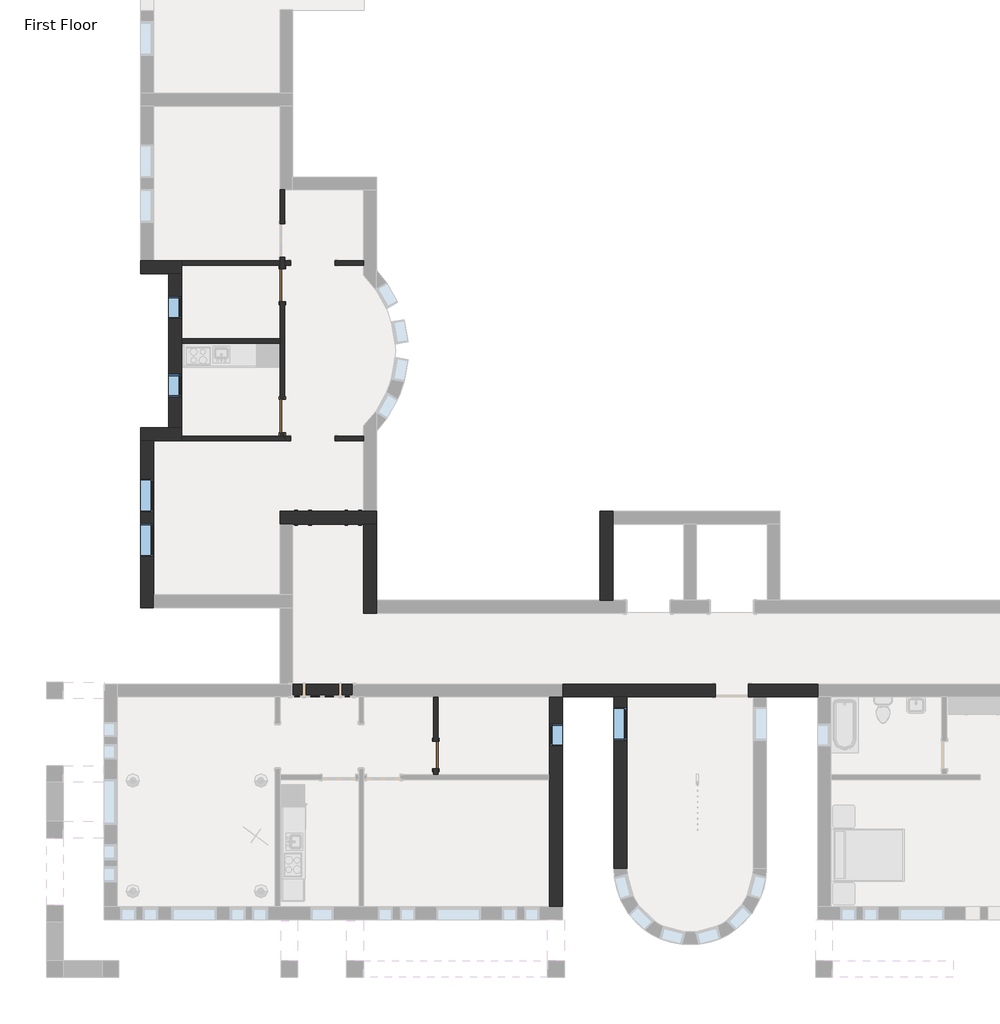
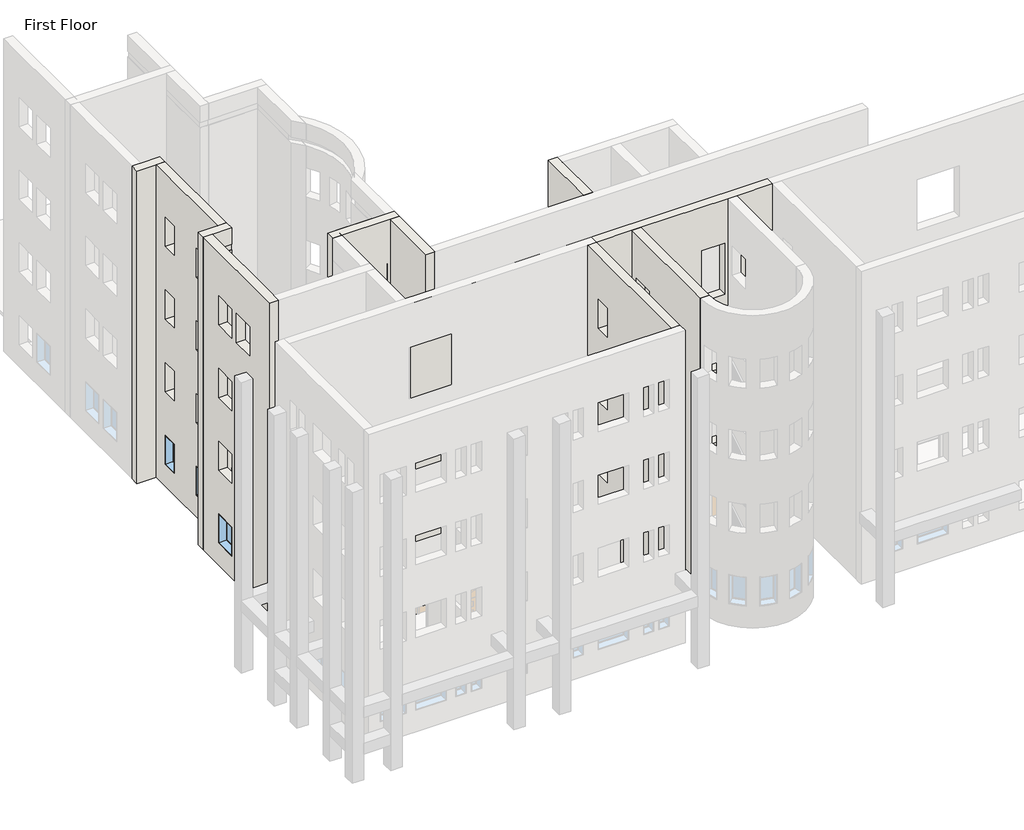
# One storey, part 4 of 23: 18 walls, 6 windows, 4 doors.
"""IFC4 building model written with IfcOpenShell, lengths in millimetres."""

from ifc_helpers import new_model, si_unit, frame, origin, origin_with_axes, place, context, project, spatial, polyline, outline, extrude, faceted_brep, transform, mapped, element, save
from components import door_4d6c7550, door_a1797ceb, door_a3eb833a, door_ffdb1193, window_60baf983, window_ed80354a, window_0e2fc6ce

model = new_model("IFC4")

# Units and contexts
model_context = context("Model", 3, world=origin())
ifc_project = project(units=[si_unit("LENGTHUNIT", "METRE", prefix="MILLI")], contexts=[model_context])

# Site, building, storey
site = spatial("IfcSite", under=ifc_project)
building = spatial("IfcBuilding", under=site)
storey = spatial("IfcBuildingStorey", under=building, Name="First Floor", Elevation=0.0)

# Doors
placement = place(None, origin())
door_shape = door_4d6c7550(model_context)
element("IfcDoor", 1, ObjectType="Single-Flush : 30\" x 84\"", at=placement, inside=storey, context=model_context, shape_type="MappedRepresentation", body=[
    mapped(door_shape, transform((-22018.5964563, -29722.2808133, 0.0), x_axis=(0.0, -1.0, 0.0), y_axis=(1.0, 0.0, 0.0), z_axis=(0.0, 0.0, 1.0))),
])
door_2_shape = door_a1797ceb(model_context)
element("IfcDoor", 2, ObjectType="Single-Flush : 36\" x 84\"", at=placement, inside=storey, context=model_context, shape_type="MappedRepresentation", body=[
    mapped(door_2_shape, transform((-26223.8839563, -16873.0558133, 0.0), x_axis=(0.0, 1.0, 0.0), y_axis=(-1.0, 0.0, 0.0), z_axis=(0.0, 0.0, 1.0))),
])
door_3_shape = door_a3eb833a(model_context)
element("IfcDoor", 3, ObjectType="Single-Flush : 36\" x 84\"", at=placement, inside=storey, context=model_context, shape_type="MappedRepresentation", body=[
    mapped(door_3_shape, transform((-26223.8839563, -20451.2808133, 0.0), x_axis=(0.0, -1.0, 0.0), y_axis=(1.0, 0.0, 0.0), z_axis=(0.0, 0.0, 1.0))),
])
door_4_shape = door_ffdb1193(model_context)
element("IfcDoor", 4, ObjectType="Single-Raised Panel with Sidelights : 36\" x 84\"", at=placement, inside=storey, context=model_context, shape_type="MappedRepresentation", body=[
    mapped(door_4_shape, transform((-24968.1714563, -23234.1683133, 0.0), x_axis=(1.0, 0.0, 0.0), y_axis=(0.0, 1.0, 0.0), z_axis=(0.0, 0.0, 1.0))),
])

# Walls
element("IfcWall", 5, ObjectType="Exterior - Brick on Mtl. Stud", at=placement, inside=storey, context=model_context, shape_type="Brep", body=[
    faceted_brep([(-17171.9589563, -25496.3558133, 0.0), (-17171.9589563, -23410.3808133, 0.0), (-17171.9589563, -23057.9558133, 0.0), (-17171.9589563, -23057.9558133, 13106.4), (-17171.9589563, -23410.3808133, 13106.4), (-17171.9589563, -25496.3558133, 13106.4), (-17524.3839563, -25496.3558133, 0.0), (-17524.3839563, -25496.3558133, 13106.4), (-17524.3839563, -23057.9558133, 13106.4), (-17524.3839563, -23057.9558133, 0.0)], [[[0, 1, 2, 3, 4, 5]], [[6, 7, 8, 9]], [[2, 1, 0, 6, 9]], [[5, 4, 3, 8, 7]], [[3, 2, 9, 8]], [[0, 5, 7, 6]]]),
])
element("IfcWall", 6, ObjectType="Exterior - Brick on Mtl. Stud", at=placement, inside=storey, context=model_context, shape_type="SweptSolid", body=[
    extrude(outline(polyline([(-28134.7808133, 0.0), (-32835.3683133, 0.0), (-32835.3683133, 13106.4), (-28134.7808133, 13106.4), (-28134.7808133, 0.0)]), holes=[polyline([(-28415.7683133, 8229.6), (-29330.1683133, 8229.6), (-29330.1683133, 7010.4), (-28415.7683133, 7010.4), (-28415.7683133, 8229.6)]), polyline([(-28415.7683133, 5181.6), (-29330.1683133, 5181.6), (-29330.1683133, 3962.4), (-28415.7683133, 3962.4), (-28415.7683133, 5181.6)]), polyline([(-28415.7683133, 11277.6), (-29330.1683133, 11277.6), (-29330.1683133, 10058.4), (-28415.7683133, 10058.4), (-28415.7683133, 11277.6)]), polyline([(-28415.7683133, 2133.6), (-29330.1683133, 2133.6), (-29330.1683133, 914.4), (-28415.7683133, 914.4), (-28415.7683133, 2133.6)])]), frame((-17143.3839563, 0.0, 0.0), z_axis=(1.0, 0.0, 0.0), x_axis=(0.0, 1.0, 0.0)), (0.0, 0.0, 1.0), 352.425),
])
element("IfcWall", 7, ObjectType="Exterior - Brick on Mtl. Stud", at=placement, inside=storey, context=model_context, shape_type="Brep", body=[
    faceted_brep([(-26287.3839563, -23410.3808133, 0.0), (-25934.9589563, -23410.3808133, 0.0), (-24001.3839563, -23410.3808133, 0.0), (-23648.9589563, -23410.3808133, 0.0), (-23648.9589563, -23410.3808133, 13106.4), (-24001.3839563, -23410.3808133, 13106.4), (-25934.9589563, -23410.3808133, 13106.4), (-26287.3839563, -23410.3808133, 13106.4), (-26287.3839563, -23410.3808133, 12420.6), (-26287.3839563, -23410.3808133, 12192.0), (-26287.3839563, -23057.9558133, 0.0), (-26287.3839563, -23057.9558133, 13106.4), (-24001.3839563, -23057.9558133, 13106.4), (-23648.9589563, -23057.9558133, 13106.4), (-23648.9589563, -23057.9558133, 0.0), (-24001.3839563, -23057.9558133, 0.0)], [[[0, 1, 2, 3, 4, 5, 6, 7, 8, 9]], [[10, 11, 12, 13, 14, 15]], [[3, 2, 1, 0, 10, 15, 14]], [[7, 6, 5, 4, 13, 12, 11]], [[4, 3, 14, 13]], [[0, 9, 8, 7, 11, 10]]]),
])
element("IfcWall", 8, ObjectType="Exterior - Brick on Mtl. Stud", at=placement, inside=storey, context=model_context, shape_type="Brep", body=[
    faceted_brep([(-23648.9589563, -25848.7808133, 0.0), (-23648.9589563, -25496.3558133, 0.0), (-23648.9589563, -23410.3808133, 0.0), (-23648.9589563, -23410.3808133, 13106.4), (-23648.9589563, -25496.3558133, 13106.4), (-23648.9589563, -25848.7808133, 13106.4), (-24001.3839563, -25848.7808133, 0.0), (-24001.3839563, -25848.7808133, 13106.4), (-24001.3839563, -23410.3808133, 13106.4), (-24001.3839563, -23410.3808133, 0.0)], [[[0, 1, 2, 3, 4, 5]], [[6, 7, 8, 9]], [[2, 1, 0, 6, 9]], [[5, 4, 3, 8, 7]], [[0, 5, 7, 6]], [[3, 2, 9, 8]]]),
])
element("IfcWall", 9, ObjectType="Exterior - Brick on Mtl. Stud", at=placement, inside=storey, context=model_context, shape_type="Brep", body=[
    faceted_brep([(-11571.2589563, -27782.3558133, 0.0), (-13461.9714563, -27782.3558133, 0.0), (-13461.9714563, -27782.3558133, 2133.6), (-14376.3714563, -27782.3558133, 2133.6), (-14376.3714563, -27782.3558133, 0.0), (-25934.9589563, -27782.3558133, 0.0), (-25934.9589563, -27782.3558133, 13106.4), (-11571.2589563, -27782.3558133, 13106.4), (-14376.3714563, -27782.3558133, 6096.0), (-13461.9714563, -27782.3558133, 6096.0), (-13461.9714563, -27782.3558133, 8229.6), (-14376.3714563, -27782.3558133, 8229.6), (-14376.3714563, -27782.3558133, 3048.0), (-13461.9714563, -27782.3558133, 3048.0), (-13461.9714563, -27782.3558133, 5181.6), (-14376.3714563, -27782.3558133, 5181.6), (-14376.3714563, -27782.3558133, 9144.0), (-13461.9714563, -27782.3558133, 9144.0), (-13461.9714563, -27782.3558133, 11277.6), (-14376.3714563, -27782.3558133, 11277.6), (-13461.9714563, -28134.7808133, 2133.6), (-13461.9714563, -28134.7808133, 0.0), (-13333.3839563, -28134.7808133, 0.0), (-12980.9589563, -28134.7808133, 0.0), (-11571.2589563, -28134.7808133, 0.0), (-11571.2589563, -28134.7808133, 13106.4), (-12980.9589563, -28134.7808133, 13106.4), (-13333.3839563, -28134.7808133, 13106.4), (-16790.9589563, -28134.7808133, 13106.4), (-17143.3839563, -28134.7808133, 13106.4), (-18554.6714563, -28134.7808133, 13106.4), (-18907.0964563, -28134.7808133, 13106.4), (-25934.9589563, -28134.7808133, 13106.4), (-25934.9589563, -28134.7808133, 0.0), (-24128.3839563, -28134.7808133, 0.0), (-24001.3839563, -28134.7808133, 0.0), (-22082.0964563, -28134.7808133, 0.0), (-21955.0964563, -28134.7808133, 0.0), (-18907.0964563, -28134.7808133, 0.0), (-18554.6714563, -28134.7808133, 0.0), (-17143.3839563, -28134.7808133, 0.0), (-16790.9589563, -28134.7808133, 0.0), (-14376.3714563, -28134.7808133, 0.0), (-14376.3714563, -28134.7808133, 2133.6), (-14376.3714563, -28134.7808133, 6096.0), (-14376.3714563, -28134.7808133, 8229.6), (-13461.9714563, -28134.7808133, 8229.6), (-13461.9714563, -28134.7808133, 6096.0), (-14376.3714563, -28134.7808133, 3048.0), (-14376.3714563, -28134.7808133, 5181.6), (-13461.9714563, -28134.7808133, 5181.6), (-13461.9714563, -28134.7808133, 3048.0), (-14376.3714563, -28134.7808133, 9144.0), (-14376.3714563, -28134.7808133, 11277.6), (-13461.9714563, -28134.7808133, 11277.6), (-13461.9714563, -28134.7808133, 9144.0)], [[[0, 1, 2, 3, 4, 5, 6, 7], [8, 9, 10, 11], [12, 13, 14, 15], [16, 17, 18, 19]], [[20, 21, 22, 23, 24, 25, 26, 27, 28, 29, 30, 31, 32, 33, 34, 35, 36, 37, 38, 39, 40, 41, 42, 43], [44, 45, 46, 47], [48, 49, 50, 51], [52, 53, 54, 55]], [[24, 23, 22, 21, 1, 0]], [[42, 41, 40, 39, 38, 37, 36, 35, 34, 33, 5, 4]], [[7, 6, 32, 31, 30, 29, 28, 27, 26, 25]], [[0, 7, 25, 24]], [[6, 5, 33, 32]], [[2, 1, 21, 20]], [[3, 2, 20, 43]], [[4, 3, 43, 42]], [[9, 8, 44, 47]], [[10, 9, 47, 46]], [[11, 10, 46, 45]], [[8, 11, 45, 44]], [[13, 12, 48, 51]], [[14, 13, 51, 50]], [[15, 14, 50, 49]], [[12, 15, 49, 48]], [[17, 16, 52, 55]], [[18, 17, 55, 54]], [[19, 18, 54, 53]], [[16, 19, 53, 52]]]),
])
element("IfcWall", 10, ObjectType="Exterior - Brick on Mtl. Stud", at=placement, inside=storey, context=model_context, shape_type="Brep", body=[
    faceted_brep([(-18907.0964563, -28134.7808133, 0.0), (-18907.0964563, -30268.3808133, 0.0), (-18907.0964563, -30395.3808133, 0.0), (-18907.0964563, -33878.3558133, 0.0), (-18907.0964563, -33878.3558133, 13106.4), (-18907.0964563, -28134.7808133, 13106.4), (-18907.0964563, -28872.9683133, 8229.6), (-18907.0964563, -29482.5683133, 8229.6), (-18907.0964563, -29482.5683133, 7010.4), (-18907.0964563, -28872.9683133, 7010.4), (-18907.0964563, -28872.9683133, 5181.6), (-18907.0964563, -29482.5683133, 5181.6), (-18907.0964563, -29482.5683133, 3962.4), (-18907.0964563, -28872.9683133, 3962.4), (-18907.0964563, -28872.9683133, 11277.6), (-18907.0964563, -29482.5683133, 11277.6), (-18907.0964563, -29482.5683133, 10058.4), (-18907.0964563, -28872.9683133, 10058.4), (-18907.0964563, -28872.9683133, 2133.6), (-18907.0964563, -29482.5683133, 2133.6), (-18907.0964563, -29482.5683133, 914.4), (-18907.0964563, -28872.9683133, 914.4), (-18554.6714563, -28134.7808133, 0.0), (-18554.6714563, -28134.7808133, 13106.4), (-18554.6714563, -33878.3558133, 13106.4), (-18554.6714563, -33878.3558133, 0.0), (-18554.6714563, -28872.9683133, 8229.6), (-18554.6714563, -28872.9683133, 7010.4), (-18554.6714563, -29482.5683133, 7010.4), (-18554.6714563, -29482.5683133, 8229.6), (-18554.6714563, -28872.9683133, 5181.6), (-18554.6714563, -28872.9683133, 3962.4), (-18554.6714563, -29482.5683133, 3962.4), (-18554.6714563, -29482.5683133, 5181.6), (-18554.6714563, -28872.9683133, 11277.6), (-18554.6714563, -28872.9683133, 10058.4), (-18554.6714563, -29482.5683133, 10058.4), (-18554.6714563, -29482.5683133, 11277.6), (-18554.6714563, -28872.9683133, 2133.6), (-18554.6714563, -28872.9683133, 914.4), (-18554.6714563, -29482.5683133, 914.4), (-18554.6714563, -29482.5683133, 2133.6), (-18741.9964563, -28134.7808133, 0.0), (-18741.9964563, -33878.3558133, 0.0)], [[[0, 1, 2, 3, 4, 5], [6, 7, 8, 9], [10, 11, 12, 13], [14, 15, 16, 17], [18, 19, 20, 21]], [[22, 23, 24, 25], [26, 27, 28, 29], [30, 31, 32, 33], [34, 35, 36, 37], [38, 39, 40, 41]], [[5, 4, 24, 23]], [[0, 5, 23, 22, 42]], [[4, 3, 43, 25, 24]], [[42, 22, 25, 43]], [[3, 2, 1, 0, 42, 43]], [[27, 26, 6, 9]], [[28, 27, 9, 8]], [[29, 28, 8, 7]], [[26, 29, 7, 6]], [[31, 30, 10, 13]], [[32, 31, 13, 12]], [[33, 32, 12, 11]], [[30, 33, 11, 10]], [[35, 34, 14, 17]], [[36, 35, 17, 16]], [[37, 36, 16, 15]], [[34, 37, 15, 14]], [[39, 38, 18, 21]], [[40, 39, 21, 20]], [[41, 40, 20, 19]], [[38, 41, 19, 18]]]),
])
element("IfcWall", 11, ObjectType="Exterior - Brick on Mtl. Stud", at=placement, inside=storey, context=model_context, shape_type="Brep", body=[
    faceted_brep([(-24001.3839563, -23410.3808133, 13106.4), (-25934.9589563, -23410.3808133, 13106.4), (-25934.9589563, -23410.3808133, 0.0), (-25806.3714563, -23410.3808133, 0.0), (-25806.3714563, -23410.3808133, 2133.6), (-24129.9714563, -23410.3808133, 2133.6), (-24129.9714563, -23410.3808133, 0.0), (-24001.3839563, -23410.3808133, 0.0), (-24129.9714563, -23410.3808133, 6096.0), (-25806.3714563, -23410.3808133, 6096.0), (-25806.3714563, -23410.3808133, 8229.6), (-24129.9714563, -23410.3808133, 8229.6), (-24129.9714563, -23410.3808133, 3048.0), (-25806.3714563, -23410.3808133, 3048.0), (-25806.3714563, -23410.3808133, 5181.6), (-24129.9714563, -23410.3808133, 5181.6), (-24129.9714563, -23410.3808133, 9144.0), (-25806.3714563, -23410.3808133, 9144.0), (-25806.3714563, -23410.3808133, 11277.6), (-24129.9714563, -23410.3808133, 11277.6), (-25934.9589563, -23057.9558133, 13106.4), (-24001.3839563, -23057.9558133, 13106.4), (-24001.3839563, -23057.9558133, 12420.6), (-25934.9589563, -23057.9558133, 12420.6), (-24129.9714563, -23057.9558133, 0.0), (-24129.9714563, -23057.9558133, 2133.6), (-25806.3714563, -23057.9558133, 2133.6), (-25806.3714563, -23057.9558133, 0.0), (-25934.9589563, -23057.9558133, 0.0), (-25934.9589563, -23057.9558133, 12192.0), (-24001.3839563, -23057.9558133, 12192.0), (-24001.3839563, -23057.9558133, 0.0), (-25806.3714563, -23057.9558133, 6096.0), (-24129.9714563, -23057.9558133, 6096.0), (-24129.9714563, -23057.9558133, 8229.6), (-25806.3714563, -23057.9558133, 8229.6), (-25806.3714563, -23057.9558133, 3048.0), (-24129.9714563, -23057.9558133, 3048.0), (-24129.9714563, -23057.9558133, 5181.6), (-25806.3714563, -23057.9558133, 5181.6), (-25806.3714563, -23057.9558133, 9144.0), (-24129.9714563, -23057.9558133, 9144.0), (-24129.9714563, -23057.9558133, 11277.6), (-25806.3714563, -23057.9558133, 11277.6), (-24001.3839563, -23070.6558133, 12192.0), (-24001.3839563, -23070.6558133, 12420.6), (-25934.9589563, -23070.6558133, 12420.6), (-25934.9589563, -23070.6558133, 12192.0)], [[[0, 1, 2, 3, 4, 5, 6, 7], [8, 9, 10, 11], [12, 13, 14, 15], [16, 17, 18, 19]], [[20, 21, 22, 23]], [[24, 25, 26, 27, 28, 29, 30, 31], [32, 33, 34, 35], [36, 37, 38, 39], [40, 41, 42, 43]], [[31, 7, 6, 24]], [[2, 28, 27, 3]], [[1, 0, 21, 20]], [[0, 7, 31, 30, 44, 45, 22, 21]], [[2, 1, 20, 23, 46, 47, 29, 28]], [[25, 24, 6, 5]], [[26, 25, 5, 4]], [[27, 26, 4, 3]], [[33, 32, 9, 8]], [[34, 33, 8, 11]], [[35, 34, 11, 10]], [[32, 35, 10, 9]], [[37, 36, 13, 12]], [[38, 37, 12, 15]], [[39, 38, 15, 14]], [[36, 39, 14, 13]], [[41, 40, 17, 16]], [[42, 41, 16, 19]], [[43, 42, 19, 18]], [[40, 43, 18, 17]], [[47, 44, 30, 29]], [[45, 46, 23, 22]], [[44, 47, 46, 45]]]),
])
element("IfcWall", 12, ObjectType="Exterior - Brick on Mtl. Stud", at=placement, inside=storey, context=model_context, shape_type="Brep", body=[
    faceted_brep([(-30097.3839563, -16552.3808133, 0.0), (-29335.3839563, -16552.3808133, 0.0), (-28982.9589563, -16552.3808133, 0.0), (-28982.9589563, -16552.3808133, 12192.0), (-28995.6589563, -16552.3808133, 12192.0), (-28995.6589563, -16552.3808133, 12420.6), (-28982.9589563, -16552.3808133, 12420.6), (-28982.9589563, -16552.3808133, 13106.4), (-29335.3839563, -16552.3808133, 13106.4), (-30097.3839563, -16552.3808133, 13106.4), (-28982.9589563, -16199.9558133, 0.0), (-29744.9589563, -16199.9558133, 0.0), (-30097.3839563, -16199.9558133, 0.0), (-30097.3839563, -16199.9558133, 13106.4), (-29744.9589563, -16199.9558133, 13106.4), (-28982.9589563, -16199.9558133, 13106.4), (-28982.9589563, -16199.9558133, 12420.6), (-29744.9589563, -16199.9558133, 12420.6), (-29757.6589563, -16199.9558133, 12420.6), (-29757.6589563, -16199.9558133, 12192.0), (-29744.9589563, -16199.9558133, 12192.0), (-28982.9589563, -16199.9558133, 12192.0), (-28982.9589563, -16199.9558133, 9144.0), (-28982.9589563, -16199.9558133, 6096.0), (-28982.9589563, -16199.9558133, 3048.0), (-28982.9589563, -16326.9558133, 0.0), (-28982.9589563, -16326.9558133, 12192.0), (-29757.6589563, -16212.6558133, 12192.0), (-28995.6589563, -16212.6558133, 12192.0), (-28995.6589563, -16212.6558133, 12420.6), (-29757.6589563, -16212.6558133, 12420.6)], [[[0, 1, 2, 3, 4, 5, 6, 7, 8, 9]], [[10, 11, 12, 13, 14, 15, 16, 17, 18, 19, 20, 21, 22, 23, 24]], [[2, 1, 0, 12, 11, 10, 25]], [[9, 8, 7, 15, 14, 13]], [[0, 9, 13, 12]], [[2, 25, 10, 24, 23, 22, 21, 26, 3]], [[15, 7, 6, 16]], [[27, 28, 4, 3, 26, 21, 20, 19]], [[29, 30, 18, 17, 16, 6, 5]], [[30, 27, 19, 18]], [[28, 27, 30, 29]], [[28, 29, 5, 4]]]),
])
element("IfcWall", 13, ObjectType="Exterior - Brick on Mtl. Stud", at=placement, inside=storey, context=model_context, shape_type="Brep", body=[
    faceted_brep([(-29335.3839563, -16552.3808133, 0.0), (-29335.3839563, -20771.9558133, 0.0), (-29335.3839563, -20771.9558133, 13106.4), (-29335.3839563, -16552.3808133, 13106.4), (-29335.3839563, -17177.8558133, 7010.4), (-29335.3839563, -17177.8558133, 8229.6), (-29335.3839563, -17787.4558133, 8229.6), (-29335.3839563, -17787.4558133, 7010.4), (-29335.3839563, -19311.4558133, 7010.4), (-29335.3839563, -19311.4558133, 8229.6), (-29335.3839563, -19921.0558133, 8229.6), (-29335.3839563, -19921.0558133, 7010.4), (-29335.3839563, -17177.8558133, 3962.4), (-29335.3839563, -17177.8558133, 5181.6), (-29335.3839563, -17787.4558133, 5181.6), (-29335.3839563, -17787.4558133, 3962.4), (-29335.3839563, -19311.4558133, 3962.4), (-29335.3839563, -19311.4558133, 5181.6), (-29335.3839563, -19921.0558133, 5181.6), (-29335.3839563, -19921.0558133, 3962.4), (-29335.3839563, -17177.8558133, 10058.4), (-29335.3839563, -17177.8558133, 11277.6), (-29335.3839563, -17787.4558133, 11277.6), (-29335.3839563, -17787.4558133, 10058.4), (-29335.3839563, -19311.4558133, 10058.4), (-29335.3839563, -19311.4558133, 11277.6), (-29335.3839563, -19921.0558133, 11277.6), (-29335.3839563, -19921.0558133, 10058.4), (-29335.3839563, -17177.8558133, 914.4), (-29335.3839563, -17177.8558133, 2133.6), (-29335.3839563, -17787.4558133, 2133.6), (-29335.3839563, -17787.4558133, 914.4), (-29335.3839563, -19311.4558133, 914.4), (-29335.3839563, -19311.4558133, 2133.6), (-29335.3839563, -19921.0558133, 2133.6), (-29335.3839563, -19921.0558133, 914.4), (-28982.9589563, -20771.9558133, 0.0), (-28982.9589563, -18460.5558133, 0.0), (-28982.9589563, -18333.5558133, 0.0), (-28982.9589563, -16552.3808133, 0.0), (-28982.9589563, -16552.3808133, 12192.0), (-28982.9589563, -18333.5558133, 12192.0), (-28982.9589563, -18460.5558133, 12192.0), (-28982.9589563, -20771.9558133, 12192.0), (-28982.9589563, -17177.8558133, 8229.6), (-28982.9589563, -17177.8558133, 7010.4), (-28982.9589563, -17787.4558133, 7010.4), (-28982.9589563, -17787.4558133, 8229.6), (-28982.9589563, -19311.4558133, 8229.6), (-28982.9589563, -19311.4558133, 7010.4), (-28982.9589563, -19921.0558133, 7010.4), (-28982.9589563, -19921.0558133, 8229.6), (-28982.9589563, -17177.8558133, 5181.6), (-28982.9589563, -17177.8558133, 3962.4), (-28982.9589563, -17787.4558133, 3962.4), (-28982.9589563, -17787.4558133, 5181.6), (-28982.9589563, -19311.4558133, 5181.6), (-28982.9589563, -19311.4558133, 3962.4), (-28982.9589563, -19921.0558133, 3962.4), (-28982.9589563, -19921.0558133, 5181.6), (-28982.9589563, -17177.8558133, 11277.6), (-28982.9589563, -17177.8558133, 10058.4), (-28982.9589563, -17787.4558133, 10058.4), (-28982.9589563, -17787.4558133, 11277.6), (-28982.9589563, -19311.4558133, 11277.6), (-28982.9589563, -19311.4558133, 10058.4), (-28982.9589563, -19921.0558133, 10058.4), (-28982.9589563, -19921.0558133, 11277.6), (-28982.9589563, -17177.8558133, 2133.6), (-28982.9589563, -17177.8558133, 914.4), (-28982.9589563, -17787.4558133, 914.4), (-28982.9589563, -17787.4558133, 2133.6), (-28982.9589563, -19311.4558133, 2133.6), (-28982.9589563, -19311.4558133, 914.4), (-28982.9589563, -19921.0558133, 914.4), (-28982.9589563, -19921.0558133, 2133.6), (-28982.9589563, -16552.3808133, 13106.4), (-28982.9589563, -20771.9558133, 13106.4), (-28982.9589563, -20771.9558133, 12420.6), (-28982.9589563, -16552.3808133, 12420.6), (-28995.6589563, -16552.3808133, 12420.6), (-28995.6589563, -16552.3808133, 12192.0), (-28995.6589563, -20771.9558133, 12192.0), (-28995.6589563, -20771.9558133, 12420.6)], [[[0, 1, 2, 3], [4, 5, 6, 7], [8, 9, 10, 11], [12, 13, 14, 15], [16, 17, 18, 19], [20, 21, 22, 23], [24, 25, 26, 27], [28, 29, 30, 31], [32, 33, 34, 35]], [[36, 37, 38, 39, 40, 41, 42, 43], [44, 45, 46, 47], [48, 49, 50, 51], [52, 53, 54, 55], [56, 57, 58, 59], [60, 61, 62, 63], [64, 65, 66, 67], [68, 69, 70, 71], [72, 73, 74, 75]], [[76, 77, 78, 79]], [[1, 0, 39, 38, 37, 36]], [[3, 2, 77, 76]], [[0, 3, 76, 79, 80, 81, 40, 39]], [[2, 1, 36, 43, 82, 83, 78, 77]], [[45, 44, 5, 4]], [[46, 45, 4, 7]], [[47, 46, 7, 6]], [[44, 47, 6, 5]], [[49, 48, 9, 8]], [[50, 49, 8, 11]], [[51, 50, 11, 10]], [[48, 51, 10, 9]], [[53, 52, 13, 12]], [[54, 53, 12, 15]], [[55, 54, 15, 14]], [[52, 55, 14, 13]], [[57, 56, 17, 16]], [[58, 57, 16, 19]], [[59, 58, 19, 18]], [[56, 59, 18, 17]], [[61, 60, 21, 20]], [[62, 61, 20, 23]], [[63, 62, 23, 22]], [[60, 63, 22, 21]], [[65, 64, 25, 24]], [[66, 65, 24, 27]], [[67, 66, 27, 26]], [[64, 67, 26, 25]], [[69, 68, 29, 28]], [[70, 69, 28, 31]], [[71, 70, 31, 30]], [[68, 71, 30, 29]], [[73, 72, 33, 32]], [[74, 73, 32, 35]], [[75, 74, 35, 34]], [[72, 75, 34, 33]], [[81, 82, 43, 42, 41, 40]], [[83, 80, 79, 78]], [[82, 81, 80, 83]]]),
])
element("IfcWall", 14, ObjectType="Exterior - Brick on Mtl. Stud", at=placement, inside=storey, context=model_context, shape_type="Brep", body=[
    faceted_brep([(-28982.9589563, -20771.9558133, 0.0), (-29335.3839563, -20771.9558133, 0.0), (-30097.3839563, -20771.9558133, 0.0), (-30097.3839563, -20771.9558133, 13106.4), (-29335.3839563, -20771.9558133, 13106.4), (-28982.9589563, -20771.9558133, 13106.4), (-28982.9589563, -20771.9558133, 12420.6), (-28995.6589563, -20771.9558133, 12420.6), (-28995.6589563, -20771.9558133, 12192.0), (-28982.9589563, -20771.9558133, 12192.0), (-30097.3839563, -21124.3808133, 0.0), (-29744.9589563, -21124.3808133, 0.0), (-28982.9589563, -21124.3808133, 0.0), (-28982.9589563, -21124.3808133, 3048.0), (-28982.9589563, -21124.3808133, 6096.0), (-28982.9589563, -21124.3808133, 9144.0), (-28982.9589563, -21124.3808133, 12192.0), (-29744.9589563, -21124.3808133, 12192.0), (-29757.6589563, -21124.3808133, 12192.0), (-29757.6589563, -21124.3808133, 12420.6), (-29744.9589563, -21124.3808133, 12420.6), (-28982.9589563, -21124.3808133, 12420.6), (-28982.9589563, -21124.3808133, 13106.4), (-29744.9589563, -21124.3808133, 13106.4), (-30097.3839563, -21124.3808133, 13106.4), (-28982.9589563, -20997.3808133, 0.0), (-28982.9589563, -20997.3808133, 12192.0), (-28995.6589563, -21111.6808133, 12192.0), (-29757.6589563, -21111.6808133, 12192.0), (-29757.6589563, -21111.6808133, 12420.6), (-28995.6589563, -21111.6808133, 12420.6)], [[[0, 1, 2, 3, 4, 5, 6, 7, 8, 9]], [[10, 11, 12, 13, 14, 15, 16, 17, 18, 19, 20, 21, 22, 23, 24]], [[2, 1, 0, 25, 12, 11, 10]], [[5, 4, 3, 24, 23, 22]], [[12, 25, 0, 9, 26, 16, 15, 14, 13]], [[5, 22, 21, 6]], [[3, 2, 10, 24]], [[27, 28, 18, 17, 16, 26, 9, 8]], [[29, 30, 7, 6, 21, 20, 19]], [[30, 27, 8, 7]], [[28, 27, 30, 29]], [[28, 29, 19, 18]]]),
])
element("IfcWall", 15, ObjectType="Exterior - Brick on Mtl. Stud", at=placement, inside=storey, context=model_context, shape_type="Brep", body=[
    faceted_brep([(-30097.3839563, -21124.3808133, 0.0), (-30097.3839563, -25696.3808133, 0.0), (-30097.3839563, -25696.3808133, 13106.4), (-30097.3839563, -21124.3808133, 13106.4), (-30097.3839563, -22167.3683133, 7010.4), (-30097.3839563, -22167.3683133, 8229.6), (-30097.3839563, -23081.7683133, 8229.6), (-30097.3839563, -23081.7683133, 7010.4), (-30097.3839563, -23386.5683133, 7010.4), (-30097.3839563, -23386.5683133, 8229.6), (-30097.3839563, -24300.9683133, 8229.6), (-30097.3839563, -24300.9683133, 7010.4), (-30097.3839563, -22167.3683133, 3962.4), (-30097.3839563, -22167.3683133, 5181.6), (-30097.3839563, -23081.7683133, 5181.6), (-30097.3839563, -23081.7683133, 3962.4), (-30097.3839563, -23386.5683133, 3962.4), (-30097.3839563, -23386.5683133, 5181.6), (-30097.3839563, -24300.9683133, 5181.6), (-30097.3839563, -24300.9683133, 3962.4), (-30097.3839563, -22167.3683133, 10058.4), (-30097.3839563, -22167.3683133, 11277.6), (-30097.3839563, -23081.7683133, 11277.6), (-30097.3839563, -23081.7683133, 10058.4), (-30097.3839563, -23386.5683133, 10058.4), (-30097.3839563, -23386.5683133, 11277.6), (-30097.3839563, -24300.9683133, 11277.6), (-30097.3839563, -24300.9683133, 10058.4), (-30097.3839563, -22167.3683133, 914.4), (-30097.3839563, -22167.3683133, 2133.6), (-30097.3839563, -23081.7683133, 2133.6), (-30097.3839563, -23081.7683133, 914.4), (-30097.3839563, -23386.5683133, 914.4), (-30097.3839563, -23386.5683133, 2133.6), (-30097.3839563, -24300.9683133, 2133.6), (-30097.3839563, -24300.9683133, 914.4), (-29744.9589563, -25696.3808133, 0.0), (-29744.9589563, -25343.9558133, 0.0), (-29744.9589563, -21124.3808133, 0.0), (-29744.9589563, -21124.3808133, 12192.0), (-29744.9589563, -25343.9558133, 12192.0), (-29744.9589563, -25356.6558133, 12192.0), (-29744.9589563, -25356.6558133, 12420.6), (-29744.9589563, -25343.9558133, 12420.6), (-29744.9589563, -21124.3808133, 12420.6), (-29744.9589563, -21124.3808133, 13106.4), (-29744.9589563, -25343.9558133, 13106.4), (-29744.9589563, -25696.3808133, 13106.4), (-29744.9589563, -22167.3683133, 8229.6), (-29744.9589563, -22167.3683133, 7010.4), (-29744.9589563, -23081.7683133, 7010.4), (-29744.9589563, -23081.7683133, 8229.6), (-29744.9589563, -23386.5683133, 8229.6), (-29744.9589563, -23386.5683133, 7010.4), (-29744.9589563, -24300.9683133, 7010.4), (-29744.9589563, -24300.9683133, 8229.6), (-29744.9589563, -22167.3683133, 5181.6), (-29744.9589563, -22167.3683133, 3962.4), (-29744.9589563, -23081.7683133, 3962.4), (-29744.9589563, -23081.7683133, 5181.6), (-29744.9589563, -23386.5683133, 5181.6), (-29744.9589563, -23386.5683133, 3962.4), (-29744.9589563, -24300.9683133, 3962.4), (-29744.9589563, -24300.9683133, 5181.6), (-29744.9589563, -22167.3683133, 11277.6), (-29744.9589563, -22167.3683133, 10058.4), (-29744.9589563, -23081.7683133, 10058.4), (-29744.9589563, -23081.7683133, 11277.6), (-29744.9589563, -23386.5683133, 11277.6), (-29744.9589563, -23386.5683133, 10058.4), (-29744.9589563, -24300.9683133, 10058.4), (-29744.9589563, -24300.9683133, 11277.6), (-29744.9589563, -22167.3683133, 2133.6), (-29744.9589563, -22167.3683133, 914.4), (-29744.9589563, -23081.7683133, 914.4), (-29744.9589563, -23081.7683133, 2133.6), (-29744.9589563, -23386.5683133, 2133.6), (-29744.9589563, -23386.5683133, 914.4), (-29744.9589563, -24300.9683133, 914.4), (-29744.9589563, -24300.9683133, 2133.6), (-29757.6589563, -21124.3808133, 12420.6), (-29757.6589563, -21124.3808133, 12192.0), (-29757.6589563, -25356.6558133, 12192.0), (-29757.6589563, -25356.6558133, 12420.6)], [[[0, 1, 2, 3], [4, 5, 6, 7], [8, 9, 10, 11], [12, 13, 14, 15], [16, 17, 18, 19], [20, 21, 22, 23], [24, 25, 26, 27], [28, 29, 30, 31], [32, 33, 34, 35]], [[36, 37, 38, 39, 40, 41, 42, 43, 44, 45, 46, 47], [48, 49, 50, 51], [52, 53, 54, 55], [56, 57, 58, 59], [60, 61, 62, 63], [64, 65, 66, 67], [68, 69, 70, 71], [72, 73, 74, 75], [76, 77, 78, 79]], [[1, 0, 38, 37, 36]], [[3, 2, 47, 46, 45]], [[2, 1, 36, 47]], [[0, 3, 45, 44, 80, 81, 39, 38]], [[49, 48, 5, 4]], [[50, 49, 4, 7]], [[51, 50, 7, 6]], [[48, 51, 6, 5]], [[53, 52, 9, 8]], [[54, 53, 8, 11]], [[55, 54, 11, 10]], [[52, 55, 10, 9]], [[57, 56, 13, 12]], [[58, 57, 12, 15]], [[59, 58, 15, 14]], [[56, 59, 14, 13]], [[61, 60, 17, 16]], [[62, 61, 16, 19]], [[63, 62, 19, 18]], [[60, 63, 18, 17]], [[65, 64, 21, 20]], [[66, 65, 20, 23]], [[67, 66, 23, 22]], [[64, 67, 22, 21]], [[69, 68, 25, 24]], [[70, 69, 24, 27]], [[71, 70, 27, 26]], [[68, 71, 26, 25]], [[73, 72, 29, 28]], [[74, 73, 28, 31]], [[75, 74, 31, 30]], [[72, 75, 30, 29]], [[77, 76, 33, 32]], [[78, 77, 32, 35]], [[79, 78, 35, 34]], [[76, 79, 34, 33]], [[81, 82, 41, 40, 39]], [[42, 83, 80, 44, 43]], [[83, 82, 81, 80]], [[82, 83, 42, 41]]]),
])
element("IfcWall", 16, ObjectType="Interior - 5\" Partition (2-hr)", at=placement, inside=storey, context=model_context, shape_type="SweptSolid", body=[
    extrude(outline(polyline([(-30103.2808133, 2133.6), (-30103.2808133, 0.0), (-30268.3808133, 0.0), (-30268.3808133, 3048.0), (-28134.7808133, 3048.0), (-28134.7808133, 0.0), (-29341.2808133, 0.0), (-29341.2808133, 2133.6), (-30103.2808133, 2133.6)])), frame((-22082.0964563, 0.0, 0.0), z_axis=(1.0, 0.0, 0.0), x_axis=(0.0, 1.0, 0.0)), (0.0, 0.0, 1.0), 127.0),
])
element("IfcWall", 17, ObjectType="Interior - 5\" Partition (2-hr)", at=placement, inside=storey, context=model_context, shape_type="Brep", body=[
    faceted_brep([(-28982.9589563, -21124.3808133, 0.0), (-26160.3839563, -21124.3808133, 0.0), (-26160.3839563, -21124.3808133, 3048.0), (-28982.9589563, -21124.3808133, 3048.0), (-28982.9589563, -20997.3808133, 0.0), (-28982.9589563, -20997.3808133, 3048.0), (-26287.3839563, -20997.3808133, 3048.0), (-26160.3839563, -20997.3808133, 3048.0), (-26160.3839563, -20997.3808133, 0.0), (-26287.3839563, -20997.3808133, 0.0)], [[[0, 1, 2, 3]], [[4, 5, 6, 7, 8, 9]], [[1, 0, 4, 9, 8]], [[3, 2, 7, 6, 5]], [[2, 1, 8, 7]], [[0, 3, 5, 4]]]),
])
element("IfcWall", 18, ObjectType="Interior - 5\" Partition (2-hr)", at=placement, inside=storey, context=model_context, shape_type="Brep", body=[
    faceted_brep([(-26287.3839563, -16111.0558133, 2133.6), (-26287.3839563, -16111.0558133, 0.0), (-26287.3839563, -16199.9558133, 0.0), (-26287.3839563, -16326.9558133, 0.0), (-26287.3839563, -16415.8558133, 0.0), (-26287.3839563, -16415.8558133, 2133.6), (-26287.3839563, -17330.2558133, 2133.6), (-26287.3839563, -17330.2558133, 0.0), (-26287.3839563, -18333.5558133, 0.0), (-26287.3839563, -18460.5558133, 0.0), (-26287.3839563, -19994.0808133, 0.0), (-26287.3839563, -19994.0808133, 2133.6), (-26287.3839563, -20908.4808133, 2133.6), (-26287.3839563, -20908.4808133, 0.0), (-26287.3839563, -20997.3808133, 0.0), (-26287.3839563, -20997.3808133, 3048.0), (-26287.3839563, -18460.5558133, 3048.0), (-26287.3839563, -18333.5558133, 3048.0), (-26287.3839563, -16326.9558133, 3048.0), (-26287.3839563, -16199.9558133, 3048.0), (-26287.3839563, -14266.3808133, 3048.0), (-26287.3839563, -14266.3808133, 0.0), (-26287.3839563, -15196.6558133, 0.0), (-26287.3839563, -15196.6558133, 2133.6), (-26160.3839563, -16415.8558133, 0.0), (-26160.3839563, -16326.9558133, 0.0), (-26160.3839563, -16199.9558133, 0.0), (-26160.3839563, -16111.0558133, 0.0), (-26160.3839563, -16111.0558133, 2133.6), (-26160.3839563, -15196.6558133, 2133.6), (-26160.3839563, -15196.6558133, 0.0), (-26160.3839563, -14266.3808133, 0.0), (-26160.3839563, -14266.3808133, 3048.0), (-26160.3839563, -16199.9558133, 3048.0), (-26160.3839563, -16326.9558133, 3048.0), (-26160.3839563, -20997.3808133, 3048.0), (-26160.3839563, -20997.3808133, 0.0), (-26160.3839563, -20908.4808133, 0.0), (-26160.3839563, -20908.4808133, 2133.6), (-26160.3839563, -19994.0808133, 2133.6), (-26160.3839563, -19994.0808133, 0.0), (-26160.3839563, -17330.2558133, 0.0), (-26160.3839563, -17330.2558133, 2133.6), (-26160.3839563, -16415.8558133, 2133.6)], [[[0, 1, 2, 3, 4, 5, 6, 7, 8, 9, 10, 11, 12, 13, 14, 15, 16, 17, 18, 19, 20, 21, 22, 23]], [[24, 25, 26, 27, 28, 29, 30, 31, 32, 33, 34, 35, 36, 37, 38, 39, 40, 41, 42, 43]], [[14, 13, 37, 36]], [[4, 3, 2, 1, 27, 26, 25, 24]], [[41, 40, 10, 9, 8, 7]], [[22, 21, 31, 30]], [[20, 19, 18, 17, 16, 15, 35, 34, 33, 32]], [[21, 20, 32, 31]], [[15, 14, 36, 35]], [[38, 37, 13, 12]], [[39, 38, 12, 11]], [[40, 39, 11, 10]], [[5, 4, 24, 43]], [[6, 5, 43, 42]], [[7, 6, 42, 41]], [[28, 27, 1, 0]], [[29, 28, 0, 23]], [[30, 29, 23, 22]]]),
])
element("IfcWall", 19, ObjectType="Interior - 5\" Partition (2-hr)", at=placement, inside=storey, context=model_context, shape_type="SweptSolid", body=[
    extrude(outline(polyline([(-26287.3839563, -16326.9558133), (-28982.9589563, -16326.9558133), (-28982.9589563, -16199.9558133), (-26287.3839563, -16199.9558133), (-26287.3839563, -16326.9558133)])), origin_with_axes(), (0.0, 0.0, 1.0), 3048.0),
])
element("IfcWall", 20, ObjectType="Interior - 5\" Partition (2-hr)", at=placement, inside=storey, context=model_context, shape_type="SweptSolid", body=[
    extrude(outline(polyline([(-28982.9589563, -18333.5558133), (-26287.3839563, -18333.5558133), (-26287.3839563, -18460.5558133), (-28982.9589563, -18460.5558133), (-28982.9589563, -18333.5558133)])), origin_with_axes(), (0.0, 0.0, 1.0), 3048.0),
])
element("IfcWall", 21, ObjectType="Interior - 5\" Partition (2-hr)", at=placement, inside=storey, context=model_context, shape_type="SweptSolid", body=[
    extrude(outline(polyline([(2133.6, -24776.0839563), (0.0, -24776.0839563), (0.0, -24001.3839563), (3048.0, -24001.3839563), (3048.0, -26160.3839563), (0.0, -26160.3839563), (0.0, -25995.2839563), (2133.6, -25995.2839563), (2133.6, -24776.0839563)])), frame((0.0, -16326.9558133, 0.0), z_axis=(0.0, 1.0, 0.0), x_axis=(0.0, 0.0, 1.0)), (0.0, 0.0, 1.0), 127.0),
])
element("IfcWall", 22, ObjectType="Interior - 5\" Partition (2-hr)", at=placement, inside=storey, context=model_context, shape_type="SweptSolid", body=[
    extrude(outline(polyline([(0.0, -26160.3839563), (0.0, -25995.2839563), (2133.6, -25995.2839563), (2133.6, -24776.0839563), (0.0, -24776.0839563), (0.0, -24001.3839563), (3048.0, -24001.3839563), (3048.0, -26160.3839563), (0.0, -26160.3839563)])), frame((0.0, -21124.3808133, 0.0), z_axis=(0.0, 1.0, 0.0), x_axis=(0.0, 0.0, 1.0)), (0.0, 0.0, 1.0), 127.0),
])

# Windows
window_shape = window_60baf983(model_context)
element("IfcWindow", 23, ObjectType="Fixed : 24\" x 48\"", at=placement, inside=storey, context=model_context, shape_type="MappedRepresentation", body=[
    mapped(window_shape, transform((-18730.8839563, -29139.6683133, 0.0), x_axis=(0.0, 1.0, 0.0), y_axis=(-1.0, 0.0, 0.0), z_axis=(0.0, 0.0, 1.0))),
])
window_2_shape = window_ed80354a(model_context)
element("IfcWindow", 24, ObjectType="Fixed : 24\" x 48\"", at=placement, inside=storey, context=model_context, shape_type="MappedRepresentation", body=[
    mapped(window_2_shape, transform((-29159.1714563, -19578.1558133, 0.0), x_axis=(0.0, 1.0, 0.0), y_axis=(-1.0, 0.0, 0.0), z_axis=(0.0, 0.0, 1.0))),
])
element("IfcWindow", 25, ObjectType="Fixed : 24\" x 48\"", at=placement, inside=storey, context=model_context, shape_type="MappedRepresentation", body=[
    mapped(window_2_shape, transform((-29159.1714563, -17444.5558133, 0.0), x_axis=(0.0, 1.0, 0.0), y_axis=(-1.0, 0.0, 0.0), z_axis=(0.0, 0.0, 1.0))),
])
window_3_shape = window_0e2fc6ce(model_context)
element("IfcWindow", 26, ObjectType="Fixed : 36\" x 48\"", at=placement, inside=storey, context=model_context, shape_type="MappedRepresentation", body=[
    mapped(window_3_shape, transform((-16967.1714563, -28834.8683133, 0.0), x_axis=(0.0, 1.0, 0.0), y_axis=(-1.0, 0.0, 0.0), z_axis=(0.0, 0.0, 1.0))),
])
element("IfcWindow", 27, ObjectType="Fixed : 36\" x 48\"", at=placement, inside=storey, context=model_context, shape_type="MappedRepresentation", body=[
    mapped(window_3_shape, transform((-29921.1714563, -23805.6683133, 0.0), x_axis=(0.0, 1.0, 0.0), y_axis=(-1.0, 0.0, 0.0), z_axis=(0.0, 0.0, 1.0))),
])
element("IfcWindow", 28, ObjectType="Fixed : 36\" x 48\"", at=placement, inside=storey, context=model_context, shape_type="MappedRepresentation", body=[
    mapped(window_3_shape, transform((-29921.1714563, -22586.4683133, 0.0), x_axis=(0.0, 1.0, 0.0), y_axis=(-1.0, 0.0, 0.0), z_axis=(0.0, 0.0, 1.0))),
])

save(model, "model.ifc")
